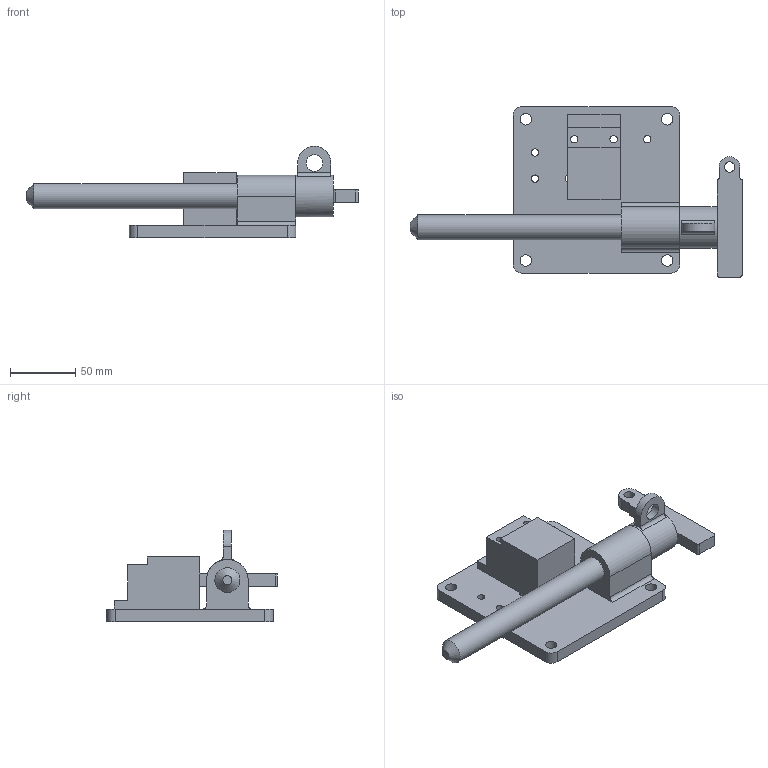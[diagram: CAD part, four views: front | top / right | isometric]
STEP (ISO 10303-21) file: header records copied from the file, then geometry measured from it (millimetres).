
FILE_DESCRIPTION(/* description */ (''),/* implementation_level */ '2;1');
FILE_NAME(/* name */ 'C:\Users\rcarver\Desktop\Tru-LOK pin\GM\With Switch\SP19Y200TR00200.stp',/* time_stamp */ '2016-06-24T13:27:53-04:00',/* author */ ('rcarver'),/* organization */ (''),/* preprocessor_version */ 'ST-DEVELOPER v16.5',/* originating_system */ 'Autodesk Inventor 2017',/* authorisation */ '');
FILE_SCHEMA (('AUTOMOTIVE_DESIGN { 1 0 10303 214 3 1 1 }'));
Length unit declared in the file: millimetre
Products named in the file (1): SP19Y200TR00200
Bounding box: 253.62 x 130.18 x 69.85 mm (x, y, z)
Volume: 369683.9 mm3; surface area: 76846.8 mm2
Topology: 3 solids, 3 shells, 69 faces, 192 edges, 131 vertices
Faces by surface type: plane 37, cylinder 31, cone 1
Full cylindrical faces by diameter (mm): 5.588 x2, 5.59 x6, 7.94 x1, 8.74 x4, 12.7 x1, 19 x1, 31.75 x1
Entity records: 2178 total; most frequent: DIRECTION 368, CARTESIAN_POINT 346, ORIENTED_EDGE 320, EDGE_CURVE 160, AXIS2_PLACEMENT_3D 138, EDGE_LOOP 116, VERTEX_POINT 116, LINE 92
